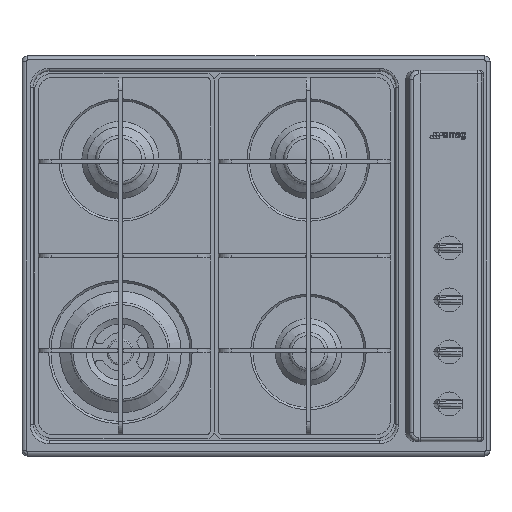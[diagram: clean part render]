
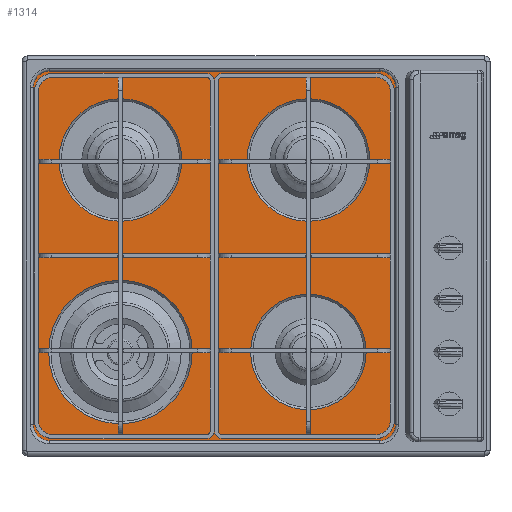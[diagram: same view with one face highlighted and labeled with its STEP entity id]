
A CAD part, top view. The second image highlights one B-rep face of the part: STEP entity #1314.
In plain terms, the highlighted planar face has unit normal (0, 0, 1).
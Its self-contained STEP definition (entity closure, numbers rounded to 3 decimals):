
#774=FACE_BOUND('',#2927,.T.);
#775=FACE_BOUND('',#2928,.T.);
#776=FACE_BOUND('',#2929,.T.);
#777=FACE_BOUND('',#2930,.T.);
#778=FACE_BOUND('',#2931,.T.);
#1314=ADVANCED_FACE('',(#774,#775,#776,#777,#778),#1855,.T.);
#1855=PLANE('',#12042);
#2927=EDGE_LOOP('',(#5267));
#2928=EDGE_LOOP('',(#5268));
#2929=EDGE_LOOP('',(#5269));
#2930=EDGE_LOOP('',(#5270));
#2931=EDGE_LOOP('',(#5271,#5272,#5273,#5274,#5275,#5276,#5277,#5278));
#5267=ORIENTED_EDGE('',*,*,#8459,.T.);
#5268=ORIENTED_EDGE('',*,*,#8460,.T.);
#5269=ORIENTED_EDGE('',*,*,#8461,.T.);
#5270=ORIENTED_EDGE('',*,*,#8462,.T.);
#5271=ORIENTED_EDGE('',*,*,#8438,.T.);
#5272=ORIENTED_EDGE('',*,*,#8441,.F.);
#5273=ORIENTED_EDGE('',*,*,#8444,.T.);
#5274=ORIENTED_EDGE('',*,*,#8447,.F.);
#5275=ORIENTED_EDGE('',*,*,#8450,.T.);
#5276=ORIENTED_EDGE('',*,*,#8453,.F.);
#5277=ORIENTED_EDGE('',*,*,#8456,.T.);
#5278=ORIENTED_EDGE('',*,*,#8458,.F.);
#7067=VERTEX_POINT('',#17990);
#7069=VERTEX_POINT('',#17994);
#7071=VERTEX_POINT('',#18000);
#7073=VERTEX_POINT('',#18006);
#7075=VERTEX_POINT('',#18012);
#7077=VERTEX_POINT('',#18018);
#7079=VERTEX_POINT('',#18024);
#7081=VERTEX_POINT('',#18030);
#7082=VERTEX_POINT('',#18037);
#7083=VERTEX_POINT('',#18039);
#7084=VERTEX_POINT('',#18041);
#7085=VERTEX_POINT('',#18043);
#8438=EDGE_CURVE('',#7067,#7069,#10282,.T.);
#8441=EDGE_CURVE('',#7071,#7069,#9172,.T.);
#8444=EDGE_CURVE('',#7071,#7073,#10286,.T.);
#8447=EDGE_CURVE('',#7075,#7073,#9174,.T.);
#8450=EDGE_CURVE('',#7075,#7077,#10290,.T.);
#8453=EDGE_CURVE('',#7079,#7077,#9176,.T.);
#8456=EDGE_CURVE('',#7079,#7081,#10294,.T.);
#8458=EDGE_CURVE('',#7067,#7081,#9178,.T.);
#8459=EDGE_CURVE('',#7082,#7082,#9179,.T.);
#8460=EDGE_CURVE('',#7083,#7083,#9180,.T.);
#8461=EDGE_CURVE('',#7084,#7084,#9181,.T.);
#8462=EDGE_CURVE('',#7085,#7085,#9182,.T.);
#9172=CIRCLE('',#12024,20.);
#9174=CIRCLE('',#12028,20.);
#9176=CIRCLE('',#12032,20.);
#9178=CIRCLE('',#12036,20.);
#9179=CIRCLE('',#12038,76.7);
#9180=CIRCLE('',#12039,72.2);
#9181=CIRCLE('',#12040,89.7);
#9182=CIRCLE('',#12041,76.7);
#10282=LINE('',#17995,#11283);
#10286=LINE('',#18007,#11287);
#10290=LINE('',#18019,#11291);
#10294=LINE('',#18031,#11295);
#11283=VECTOR('',#14427,1.);
#11287=VECTOR('',#14439,1.);
#11291=VECTOR('',#14451,1.);
#11295=VECTOR('',#14463,1.);
#12024=AXIS2_PLACEMENT_3D('',#18001,#14433,#14434);
#12028=AXIS2_PLACEMENT_3D('',#18013,#14445,#14446);
#12032=AXIS2_PLACEMENT_3D('',#18025,#14457,#14458);
#12036=AXIS2_PLACEMENT_3D('',#18034,#14468,#14469);
#12038=AXIS2_PLACEMENT_3D('',#18036,#14472,#14473);
#12039=AXIS2_PLACEMENT_3D('',#18038,#14474,#14475);
#12040=AXIS2_PLACEMENT_3D('',#18040,#14476,#14477);
#12041=AXIS2_PLACEMENT_3D('',#18042,#14478,#14479);
#12042=AXIS2_PLACEMENT_3D('',#18044,#14480,#14481);
#14427=DIRECTION('',(0.,1.,0.));
#14433=DIRECTION('',(0.,0.,-1.));
#14434=DIRECTION('',(-1.,0.,0.));
#14439=DIRECTION('',(-1.,0.,0.));
#14445=DIRECTION('',(0.,0.,-1.));
#14446=DIRECTION('',(-1.,0.,0.));
#14451=DIRECTION('',(0.,-1.,0.));
#14457=DIRECTION('',(0.,0.,-1.));
#14458=DIRECTION('',(-1.,0.,0.));
#14463=DIRECTION('',(1.,0.,0.));
#14468=DIRECTION('',(0.,0.,-1.));
#14469=DIRECTION('',(-1.,0.,0.));
#14472=DIRECTION('',(0.,0.,-1.));
#14473=DIRECTION('',(-1.,0.,0.));
#14474=DIRECTION('',(0.,0.,-1.));
#14475=DIRECTION('',(-1.,0.,0.));
#14476=DIRECTION('',(0.,0.,-1.));
#14477=DIRECTION('',(-1.,0.,0.));
#14478=DIRECTION('',(0.,0.,-1.));
#14479=DIRECTION('',(-1.,0.,0.));
#14480=DIRECTION('',(0.,0.,1.));
#14481=DIRECTION('',(-1.,0.,0.));
#17990=CARTESIAN_POINT('',(421.5,78.5,-95.5));
#17994=CARTESIAN_POINT('',(421.5,500.5,-95.5));
#17995=CARTESIAN_POINT('',(421.5,78.5,-95.5));
#18000=CARTESIAN_POINT('',(401.5,520.5,-95.5));
#18001=CARTESIAN_POINT('',(401.5,500.5,-95.5));
#18006=CARTESIAN_POINT('',(-11.5,520.5,-95.5));
#18007=CARTESIAN_POINT('',(401.5,520.5,-95.5));
#18012=CARTESIAN_POINT('',(-31.5,500.5,-95.5));
#18013=CARTESIAN_POINT('',(-11.5,500.5,-95.5));
#18018=CARTESIAN_POINT('',(-31.5,78.5,-95.5));
#18019=CARTESIAN_POINT('',(-31.5,500.5,-95.5));
#18024=CARTESIAN_POINT('',(-11.5,58.5,-95.5));
#18025=CARTESIAN_POINT('',(-11.5,78.5,-95.5));
#18030=CARTESIAN_POINT('',(401.5,58.5,-95.5));
#18031=CARTESIAN_POINT('',(-11.5,58.5,-95.5));
#18034=CARTESIAN_POINT('',(401.5,78.5,-95.5));
#18036=CARTESIAN_POINT('',(312.5,409.5,-95.5));
#18037=CARTESIAN_POINT('',(235.8,409.5,-95.5));
#18038=CARTESIAN_POINT('',(312.5,169.5,-95.5));
#18039=CARTESIAN_POINT('',(240.3,169.5,-95.5));
#18040=CARTESIAN_POINT('',(77.5,169.5,-95.5));
#18041=CARTESIAN_POINT('',(-12.2,169.5,-95.5));
#18042=CARTESIAN_POINT('',(77.5,409.5,-95.5));
#18043=CARTESIAN_POINT('',(0.8,409.5,-95.5));
#18044=CARTESIAN_POINT('',(401.5,500.5,-95.5));
